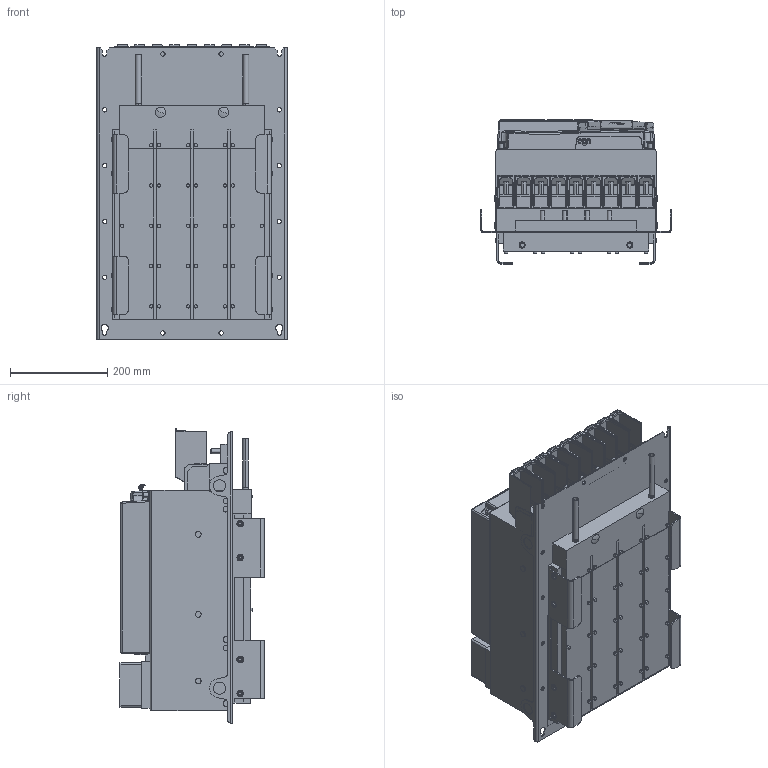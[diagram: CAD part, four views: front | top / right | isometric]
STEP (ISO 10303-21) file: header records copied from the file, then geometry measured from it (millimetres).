
FILE_DESCRIPTION (( 'STEP AP214' ), '1' );
FILE_NAME ('10060971_000.STEP', '2021-03-02T13:31:46', ( '' ), ( '' ), 'SwSTEP 2.0', 'SolidWorks 2019', '' );
FILE_SCHEMA (( 'AUTOMOTIVE_DESIGN' ));
Length unit declared in the file: millimetre
Products named in the file (14): 10060970_000_Leistungsteil + BW F6-7 TW5 (Kundenmodell); 10044643_000_Kundenmodell; 10045475_000_Geh„usebaugruppe F6-7 (Kundenmodell); 10060971_000; 10059764_000_Blindabdeckung (Kundenmodell); 10061522_000; 10059761_000; 10061503_000; 10061502_000_Deckel (Kundenmodell); 10061504_000_Gehеsebaugruppe ohne L’terkarte; 10061506_000; 10043622_000_70F6 Klemme (Kundenmodell); 10059765_000; 10061523_000
Assembly tree (13 placements, depth 4):
  10060971_000
    10060970_000_Leistungsteil + BW F6-7 TW5 (Kundenmodell)
      10043622_000_70F6 Klemme (Kundenmodell)
        10061522_000
      10061506_000
      10061523_000
    10045475_000_Geh„usebaugruppe F6-7 (Kundenmodell)
      10061502_000_Deckel (Kundenmodell)
        10061503_000
      10061504_000_Gehеsebaugruppe ohne L’terkarte
    10044643_000_Kundenmodell
      10059764_000_Blindabdeckung (Kundenmodell)
        10059765_000
      10059761_000
Bounding box: 392 x 296.9 x 606.26 mm (x, y, z)
Volume: 45757530 mm3; surface area: 2786044.3 mm2
Topology: 13 solids, 14 shells, 3623 faces, 9175 edges, 5661 vertices
Faces by surface type: plane 1812, cylinder 1164, bspline 278, sphere 176, torus 131, cone 62
Entity records: 115675 total; most frequent: CARTESIAN_POINT 29959, ORIENTED_EDGE 18128, DIRECTION 17203, EDGE_CURVE 9064, AXIS2_PLACEMENT_3D 5776, VERTEX_POINT 5658, VECTOR 5651, LINE 5651
